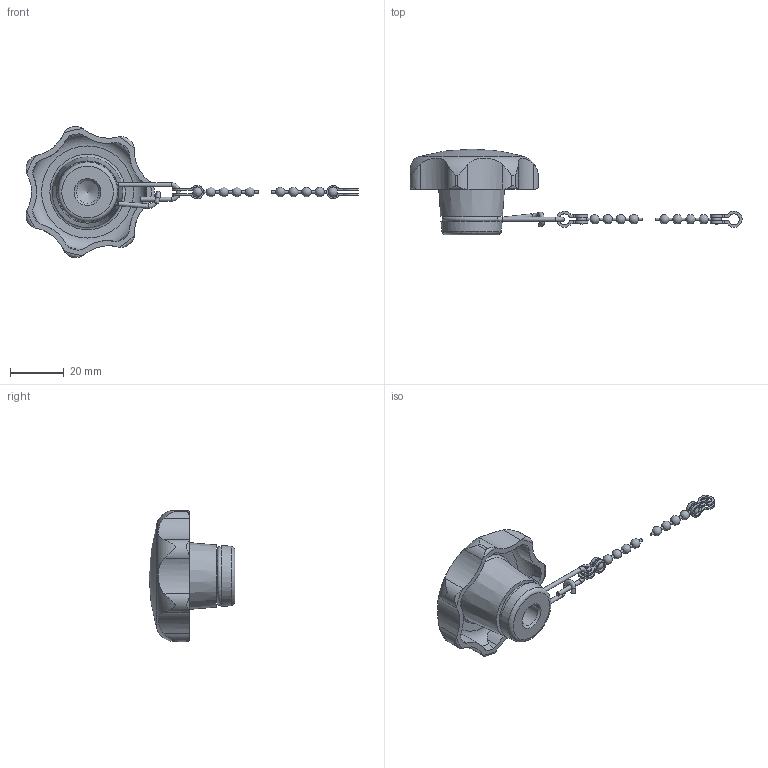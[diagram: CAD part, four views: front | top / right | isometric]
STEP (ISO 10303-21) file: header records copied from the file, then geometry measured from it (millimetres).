
FILE_DESCRIPTION( ( 'STEP AP203' ), '1' );
FILE_NAME( 'C:/Temp/Ganter_Step_05_03_2020/data/2_2/gn_6336_13/gn_6336_13_1/Star knob GN 6336.13-50-M10-K.stp', '2020-03-05T12:10:56', ( 'License CC BY-ND 4.0' ), ( 'CADENAS' ), ' ', 'PARTsolutions', ' ' );
FILE_SCHEMA( ( 'CONFIG_CONTROL_DESIGN' ) );
Length unit declared in the file: millimetre
Products named in the file (3): Star knob GN 6336.13-50-M10-K; _Star knob GN 6336.13-50-M10-K 2; _Star knob GN 111.5-200-14 k1
Assembly tree (2 placements, depth 2):
  Star knob GN 6336.13-50-M10-K
    _Star knob GN 6336.13-50-M10-K 2
    _Star knob GN 111.5-200-14 k1
Bounding box: 124.03 x 32 x 48.99 mm (x, y, z)
Volume: 21752.6 mm3; surface area: 9697.8 mm2
Topology: 2 solids, 2 shells, 163 faces, 468 edges, 301 vertices
Faces by surface type: cylinder 95, plane 27, torus 18, cone 12, sphere 11
Full cylindrical faces by diameter (mm): 0.9 x10, 1.6 x6, 8.376 x1, 18.5 x1
Entity records: 5934 total; most frequent: CARTESIAN_POINT 1832, DIRECTION 852, ORIENTED_EDGE 802, EDGE_CURVE 401, AXIS2_PLACEMENT_3D 366, VERTEX_POINT 288, EDGE_LOOP 213, CIRCLE 200
